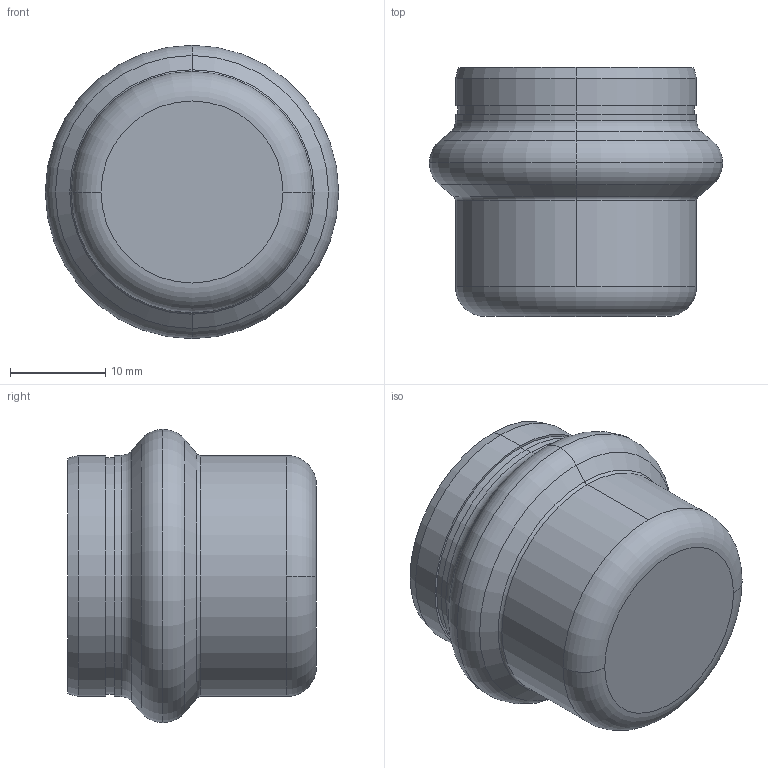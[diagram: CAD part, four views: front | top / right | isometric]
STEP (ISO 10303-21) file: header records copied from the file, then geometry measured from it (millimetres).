
FILE_DESCRIPTION(('CoCreate Modeling STEP Export'),'2;1');
FILE_NAME('8301VW22.stp','2013-03-05T13:28:15',(''),(''),'CoCreate Modeling STEP processor for AP214 (Solid Model)','CoCreate Modeling 17.00A 17-Jun-2010 (C) Parametric Technology GmbH','');
FILE_SCHEMA(('AUTOMOTIVE_DESIGN { 1 0 10303 214 1 1 1 1 }'));
Length unit declared in the file: millimetre
Products named in the file (1): 8301VW22
Bounding box: 30.78 x 26.1 x 30.78 mm (x, y, z)
Volume: 4707.1 mm3; surface area: 5139.7 mm2
Topology: 1 solids, 1 shells, 42 faces, 89 edges, 55 vertices
Faces by surface type: cylinder 16, torus 10, plane 8, cone 8
Entity records: 931 total; most frequent: ORIENTED_EDGE 178, DIRECTION 142, CARTESIAN_POINT 138, EDGE_CURVE 89, AXIS2_PLACEMENT_3D 59, VERTEX_POINT 55, EDGE_LOOP 48, FACE_OUTER_BOUND 42
